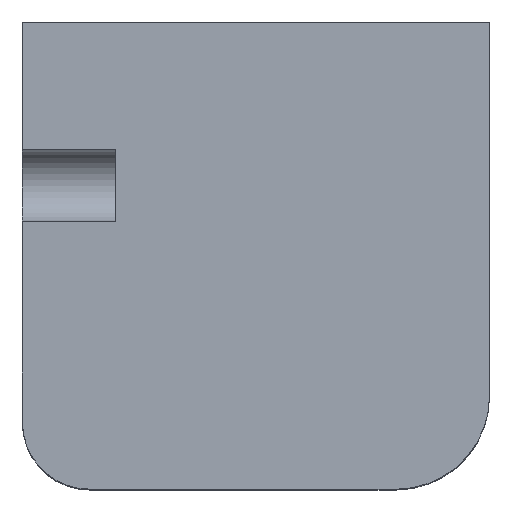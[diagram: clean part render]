
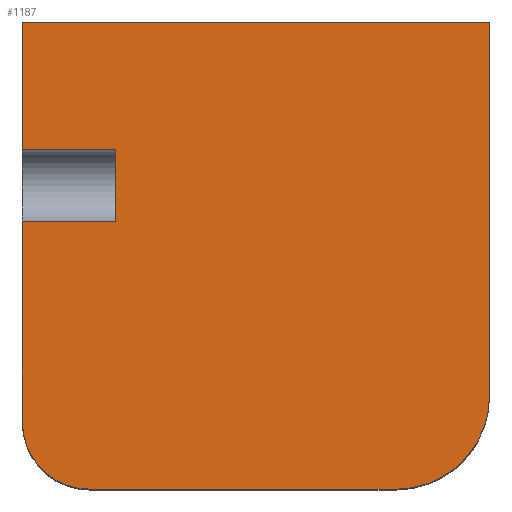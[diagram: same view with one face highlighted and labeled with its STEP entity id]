
A CAD part, top view. The second image highlights one B-rep face of the part: STEP entity #1187.
In plain terms, the highlighted planar face has unit normal (0, 0, 1).
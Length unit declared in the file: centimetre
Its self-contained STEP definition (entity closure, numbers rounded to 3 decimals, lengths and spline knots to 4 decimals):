
#66 = ORIENTED_EDGE ( 'NONE', *, *, #457, .T. ) ;
#73 = CARTESIAN_POINT ( 'NONE',  ( 0., 1000., 1000. ) ) ;
#86 = VECTOR ( 'NONE', #1355, 100. ) ;
#110 = CARTESIAN_POINT ( 'NONE',  ( 1000., 200.2673, 1000. ) ) ;
#119 = CARTESIAN_POINT ( 'NONE',  ( 0., 0., 1000. ) ) ;
#124 = CIRCLE ( 'NONE', #699, 200.2673 ) ;
#127 = EDGE_CURVE ( 'NONE', #511, #373, #614, .T. ) ;
#172 = VECTOR ( 'NONE', #1480, 100. ) ;
#195 = ORIENTED_EDGE ( 'NONE', *, *, #990, .T. ) ;
#228 = LINE ( 'NONE', #762, #172 ) ;
#254 = PLANE ( 'NONE',  #1699 ) ;
#275 = CARTESIAN_POINT ( 'NONE',  ( 0., 143.6017, 1000. ) ) ;
#280 = DIRECTION ( 'NONE',  ( 0., 0., 1. ) ) ;
#295 = VECTOR ( 'NONE', #400, 100. ) ;
#336 = VERTEX_POINT ( 'NONE', #360 ) ;
#360 = CARTESIAN_POINT ( 'NONE',  ( 143.6017, 0., 1000. ) ) ;
#362 = ORIENTED_EDGE ( 'NONE', *, *, #911, .F. ) ;
#373 = VERTEX_POINT ( 'NONE', #886 ) ;
#400 = DIRECTION ( 'NONE',  ( 0., -1., 0. ) ) ;
#414 = LINE ( 'NONE', #1528, #1575 ) ;
#418 = VERTEX_POINT ( 'NONE', #1322 ) ;
#457 = EDGE_CURVE ( 'NONE', #1576, #802, #1061, .T. ) ;
#511 = VERTEX_POINT ( 'NONE', #1773 ) ;
#513 = EDGE_CURVE ( 'NONE', #418, #1576, #1476, .T. ) ;
#519 = DIRECTION ( 'NONE',  ( 1., 0., 0. ) ) ;
#525 = CARTESIAN_POINT ( 'NONE',  ( 0., 0., 1000. ) ) ;
#570 = CIRCLE ( 'NONE', #1524, 143.6017 ) ;
#614 = LINE ( 'NONE', #1435, #739 ) ;
#629 = VECTOR ( 'NONE', #1384, 100. ) ;
#658 = EDGE_CURVE ( 'NONE', #1593, #336, #570, .T. ) ;
#684 = VECTOR ( 'NONE', #1234, 100. ) ;
#699 = AXIS2_PLACEMENT_3D ( 'NONE', #973, #1083, #519 ) ;
#702 = CARTESIAN_POINT ( 'NONE',  ( 0., 1000., 1000. ) ) ;
#710 = LINE ( 'NONE', #840, #629 ) ;
#739 = VECTOR ( 'NONE', #866, 100. ) ;
#762 = CARTESIAN_POINT ( 'NONE',  ( 199.3865, 726.6383, 1000. ) ) ;
#792 = CARTESIAN_POINT ( 'NONE',  ( 799.7327, 0., 1000. ) ) ;
#802 = VERTEX_POINT ( 'NONE', #1298 ) ;
#813 = ORIENTED_EDGE ( 'NONE', *, *, #1733, .T. ) ;
#840 = CARTESIAN_POINT ( 'NONE',  ( 0., 1000., 1000. ) ) ;
#866 = DIRECTION ( 'NONE',  ( 0., -1., 0. ) ) ;
#886 = CARTESIAN_POINT ( 'NONE',  ( 199.3865, 572.5253, 1000. ) ) ;
#911 = EDGE_CURVE ( 'NONE', #511, #802, #228, .T. ) ;
#940 = CARTESIAN_POINT ( 'NONE',  ( 199.3865, 572.5253, 1000. ) ) ;
#959 = VERTEX_POINT ( 'NONE', #792 ) ;
#970 = DIRECTION ( 'NONE',  ( 0., 1., 0. ) ) ;
#973 = CARTESIAN_POINT ( 'NONE',  ( 799.7327, 200.2673, 1000. ) ) ;
#976 = CARTESIAN_POINT ( 'NONE',  ( 143.6017, 143.6017, 1000. ) ) ;
#990 = EDGE_CURVE ( 'NONE', #336, #959, #1242, .T. ) ;
#997 = EDGE_LOOP ( 'NONE', ( #362, #1059, #1504, #813, #1377, #195, #1770, #1040, #1206, #66 ) ) ;
#1020 = VERTEX_POINT ( 'NONE', #110 ) ;
#1040 = ORIENTED_EDGE ( 'NONE', *, *, #1722, .T. ) ;
#1059 = ORIENTED_EDGE ( 'NONE', *, *, #127, .T. ) ;
#1061 = LINE ( 'NONE', #73, #295 ) ;
#1083 = DIRECTION ( 'NONE',  ( 0., 0., 1. ) ) ;
#1108 = EDGE_CURVE ( 'NONE', #959, #1020, #124, .T. ) ;
#1187 = ADVANCED_FACE ( 'NONE', ( #1496 ), #254, .T. ) ;
#1206 = ORIENTED_EDGE ( 'NONE', *, *, #513, .T. ) ;
#1209 = LINE ( 'NONE', #940, #1227 ) ;
#1227 = VECTOR ( 'NONE', #1659, 100. ) ;
#1234 = DIRECTION ( 'NONE',  ( 1., 0., 0. ) ) ;
#1239 = DIRECTION ( 'NONE',  ( 1., 0., 0. ) ) ;
#1242 = LINE ( 'NONE', #119, #684 ) ;
#1298 = CARTESIAN_POINT ( 'NONE',  ( 0., 726.6383, 1000. ) ) ;
#1322 = CARTESIAN_POINT ( 'NONE',  ( 1000., 1000., 1000. ) ) ;
#1355 = DIRECTION ( 'NONE',  ( -1., 0., 0. ) ) ;
#1377 = ORIENTED_EDGE ( 'NONE', *, *, #658, .T. ) ;
#1384 = DIRECTION ( 'NONE',  ( 0., -1., 0. ) ) ;
#1388 = DIRECTION ( 'NONE',  ( 1., 0., 0. ) ) ;
#1435 = CARTESIAN_POINT ( 'NONE',  ( 199.3865, 0., 1000. ) ) ;
#1476 = LINE ( 'NONE', #1763, #86 ) ;
#1480 = DIRECTION ( 'NONE',  ( -1., 0., 0. ) ) ;
#1494 = VERTEX_POINT ( 'NONE', #1523 ) ;
#1496 = FACE_OUTER_BOUND ( 'NONE', #997, .T. ) ;
#1504 = ORIENTED_EDGE ( 'NONE', *, *, #1666, .T. ) ;
#1523 = CARTESIAN_POINT ( 'NONE',  ( 0., 572.5253, 1000. ) ) ;
#1524 = AXIS2_PLACEMENT_3D ( 'NONE', #976, #280, #1388 ) ;
#1528 = CARTESIAN_POINT ( 'NONE',  ( 1000., 1000., 1000. ) ) ;
#1575 = VECTOR ( 'NONE', #970, 100. ) ;
#1576 = VERTEX_POINT ( 'NONE', #702 ) ;
#1593 = VERTEX_POINT ( 'NONE', #275 ) ;
#1624 = DIRECTION ( 'NONE',  ( 0., 0., 1. ) ) ;
#1659 = DIRECTION ( 'NONE',  ( -1., 0., 0. ) ) ;
#1666 = EDGE_CURVE ( 'NONE', #373, #1494, #1209, .T. ) ;
#1699 = AXIS2_PLACEMENT_3D ( 'NONE', #525, #1624, #1239 ) ;
#1722 = EDGE_CURVE ( 'NONE', #1020, #418, #414, .T. ) ;
#1733 = EDGE_CURVE ( 'NONE', #1494, #1593, #710, .T. ) ;
#1763 = CARTESIAN_POINT ( 'NONE',  ( 0., 1000., 1000. ) ) ;
#1770 = ORIENTED_EDGE ( 'NONE', *, *, #1108, .T. ) ;
#1773 = CARTESIAN_POINT ( 'NONE',  ( 199.3865, 726.6383, 1000. ) ) ;
